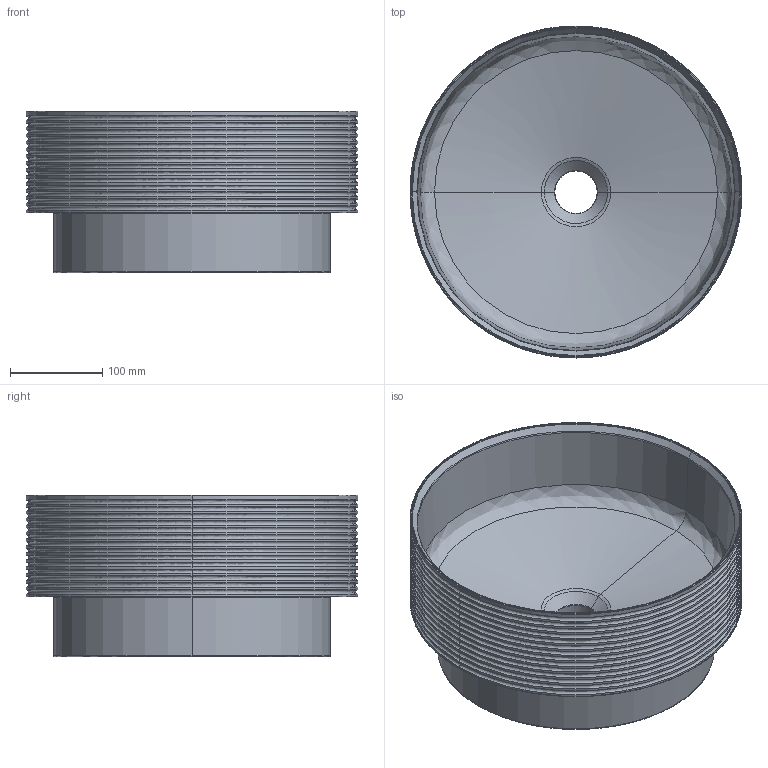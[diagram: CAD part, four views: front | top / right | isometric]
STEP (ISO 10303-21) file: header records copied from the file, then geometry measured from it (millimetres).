
FILE_DESCRIPTION(/* description */ (''),/* implementation_level */ '2;1');
FILE_NAME(/* name */ '00621_Papúa',/* time_stamp */ '2024-10-16T10:17:34+02:00',/* author */ (''),/* organization */ (''),/* preprocessor_version */ 'ST-DEVELOPER v19.2',/* originating_system */ 'Rhino 8.11',/* authorisation */ '');
FILE_SCHEMA (('CONFIG_CONTROL_DESIGN'));
Length unit declared in the file: millimetre
Products named in the file (1): Document
Bounding box: 360 x 360 x 175 mm (x, y, z)
Volume: 4065314.2 mm3; surface area: 709214.8 mm2
Topology: 2 solids, 2 shells, 128 faces, 256 edges, 128 vertices
Faces by surface type: bspline 78, cylinder 38, plane 12
Entity records: 5104 total; most frequent: CARTESIAN_POINT 2597, ORIENTED_EDGE 512, DIRECTION 424, EDGE_CURVE 256, AXIS2_PLACEMENT_3D 237, TRIMMED_CURVE 185, CIRCLE 185, ADVANCED_FACE 128
